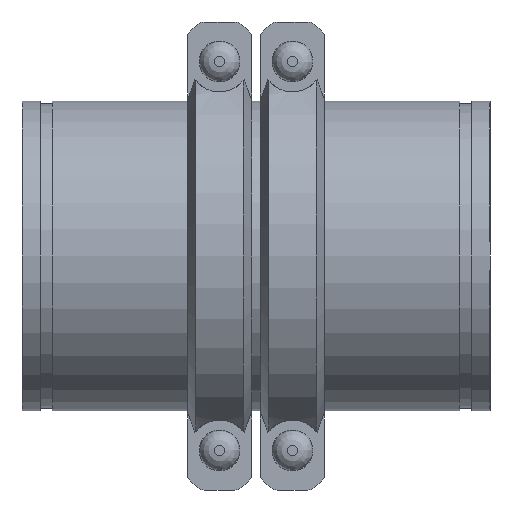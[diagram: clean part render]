
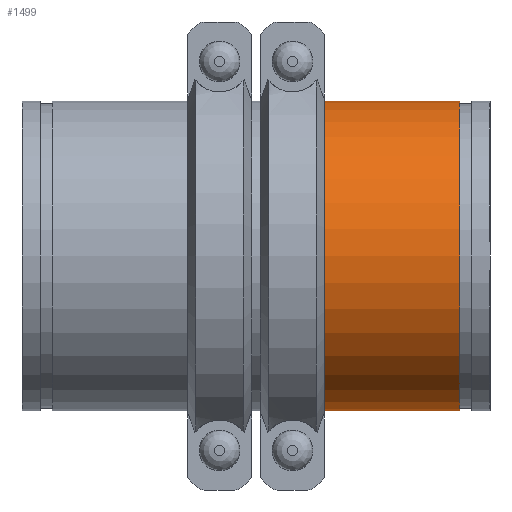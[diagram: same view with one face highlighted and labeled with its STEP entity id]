
A CAD part, front view. The second image highlights one B-rep face of the part: STEP entity #1499.
In plain terms, the highlighted cylindrical face has radius 161.925 mm (diameter 323.85 mm), a full revolution.
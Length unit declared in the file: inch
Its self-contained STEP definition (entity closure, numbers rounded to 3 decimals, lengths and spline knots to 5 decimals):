
#71=LINE('',#2387,#160);
#160=VECTOR('',#1932,6.375);
#249=CYLINDRICAL_SURFACE('',#1710,6.375);
#310=FACE_OUTER_BOUND('',#399,.T.);
#399=EDGE_LOOP('',(#980,#981,#982,#983,#984,#985));
#513=CIRCLE('',#1708,6.375);
#514=CIRCLE('',#1709,6.375);
#515=CIRCLE('',#1711,6.375);
#516=CIRCLE('',#1712,6.375);
#609=VERTEX_POINT('',#2378);
#610=VERTEX_POINT('',#2379);
#611=VERTEX_POINT('',#2383);
#612=VERTEX_POINT('',#2384);
#758=EDGE_CURVE('',#609,#610,#513,.T.);
#759=EDGE_CURVE('',#610,#609,#514,.T.);
#760=EDGE_CURVE('',#611,#612,#515,.T.);
#761=EDGE_CURVE('',#612,#611,#516,.T.);
#762=EDGE_CURVE('',#612,#610,#71,.T.);
#980=ORIENTED_EDGE('',*,*,#760,.F.);
#981=ORIENTED_EDGE('',*,*,#761,.F.);
#982=ORIENTED_EDGE('',*,*,#762,.T.);
#983=ORIENTED_EDGE('',*,*,#759,.T.);
#984=ORIENTED_EDGE('',*,*,#758,.T.);
#985=ORIENTED_EDGE('',*,*,#762,.F.);
#1499=ADVANCED_FACE('',(#310),#249,.T.);
#1708=AXIS2_PLACEMENT_3D('',#2380,#1922,#1923);
#1709=AXIS2_PLACEMENT_3D('',#2381,#1924,#1925);
#1710=AXIS2_PLACEMENT_3D('',#2382,#1926,#1927);
#1711=AXIS2_PLACEMENT_3D('',#2385,#1928,#1929);
#1712=AXIS2_PLACEMENT_3D('',#2386,#1930,#1931);
#1922=DIRECTION('center_axis',(-1.,0.,0.));
#1923=DIRECTION('ref_axis',(0.,0.,1.));
#1924=DIRECTION('center_axis',(-1.,0.,0.));
#1925=DIRECTION('ref_axis',(0.,0.,1.));
#1926=DIRECTION('center_axis',(-1.,0.,0.));
#1927=DIRECTION('ref_axis',(0.,1.,0.));
#1928=DIRECTION('center_axis',(-1.,0.,0.));
#1929=DIRECTION('ref_axis',(0.,0.,1.));
#1930=DIRECTION('center_axis',(-1.,0.,0.));
#1931=DIRECTION('ref_axis',(0.,0.,1.));
#1932=DIRECTION('',(1.,0.,0.));
#2378=CARTESIAN_POINT('',(2.78,6.375,0.));
#2379=CARTESIAN_POINT('',(2.78,-6.375,0.));
#2380=CARTESIAN_POINT('Origin',(2.78,0.,0.));
#2381=CARTESIAN_POINT('Origin',(2.78,0.,0.));
#2382=CARTESIAN_POINT('Origin',(0.,0.,
0.));
#2383=CARTESIAN_POINT('',(-2.78,6.375,0.));
#2384=CARTESIAN_POINT('',(-2.78,-6.375,0.));
#2385=CARTESIAN_POINT('Origin',(-2.78,0.,0.));
#2386=CARTESIAN_POINT('Origin',(-2.78,0.,0.));
#2387=CARTESIAN_POINT('',(0.,-6.375,0.));
